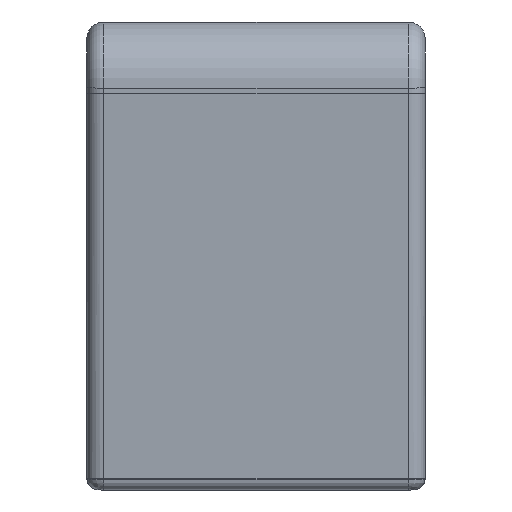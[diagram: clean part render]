
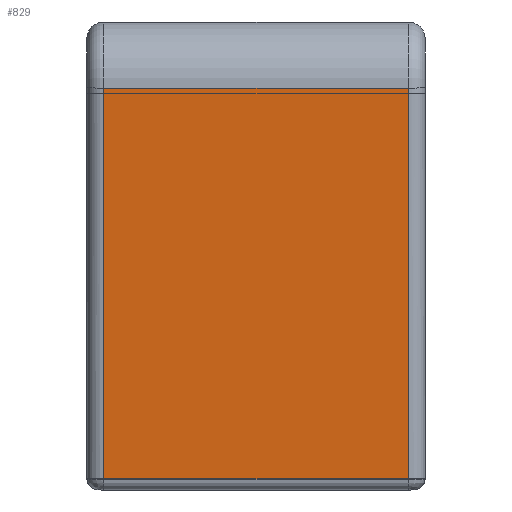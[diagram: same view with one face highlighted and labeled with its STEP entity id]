
A CAD part, left-side view. The second image highlights one B-rep face of the part: STEP entity #829.
In plain terms, the highlighted planar face has unit normal (-0.998, 0, -0.067).
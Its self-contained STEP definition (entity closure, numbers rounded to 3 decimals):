
#15 = EDGE_LOOP ( 'NONE', ( #3205, #3204, #3203, #3202 ) ) ;
#213 = AXIS2_PLACEMENT_3D ( 'NONE', #2545, #2546, #2547 ) ;
#506 = EDGE_CURVE ( 'NONE', #4975, #4966, #4009, .T. ) ;
#507 = EDGE_CURVE ( 'NONE', #4966, #5129, #4013, .T. ) ;
#508 = EDGE_CURVE ( 'NONE', #5129, #759, #4017, .T. ) ;
#509 = EDGE_CURVE ( 'NONE', #4975, #759, #4019, .T. ) ;
#759 = VERTEX_POINT ( 'NONE', #1590 ) ;
#829 = ADVANCED_FACE ( 'NONE', ( #4560 ), #2544, .T. ) ;
#1335 = CARTESIAN_POINT ( 'NONE',  ( -415.063, 13.5, -6.067 ) ) ;
#1344 = CARTESIAN_POINT ( 'NONE',  ( -417.388, 13.5, 28.632 ) ) ;
#1488 = CARTESIAN_POINT ( 'NONE',  ( -415.063, -13.5, -6.067 ) ) ;
#1590 = CARTESIAN_POINT ( 'NONE',  ( -417.388, -13.5, 28.632 ) ) ;
#2544 = PLANE ( 'NONE',  #213 ) ;
#2545 = CARTESIAN_POINT ( 'NONE',  ( -415., 15., -7. ) ) ;
#2546 = DIRECTION ( 'NONE',  ( -0.998, 0., -0.067 ) ) ;
#2547 = DIRECTION ( 'NONE',  ( -0.067, 0., 0.998 ) ) ;
#3202 = ORIENTED_EDGE ( 'NONE', *, *, #509, .F. ) ;
#3203 = ORIENTED_EDGE ( 'NONE', *, *, #508, .T. ) ;
#3204 = ORIENTED_EDGE ( 'NONE', *, *, #507, .T. ) ;
#3205 = ORIENTED_EDGE ( 'NONE', *, *, #506, .T. ) ;
#4009 = LINE ( 'NONE', #4309, #4011 ) ;
#4011 = VECTOR ( 'NONE', #4308, 1000. ) ;
#4013 = LINE ( 'NONE', #4305, #4015 ) ;
#4015 = VECTOR ( 'NONE', #4302, 1000. ) ;
#4017 = LINE ( 'NONE', #4300, #4018 ) ;
#4018 = VECTOR ( 'NONE', #4298, 1000. ) ;
#4019 = LINE ( 'NONE', #4295, #4022 ) ;
#4022 = VECTOR ( 'NONE', #4294, 1000. ) ;
#4294 = DIRECTION ( 'NONE',  ( 0., -1., 0. ) ) ;
#4295 = CARTESIAN_POINT ( 'NONE',  ( -417.388, 15., 28.632 ) ) ;
#4298 = DIRECTION ( 'NONE',  ( -0.067, 0., 0.998 ) ) ;
#4300 = CARTESIAN_POINT ( 'NONE',  ( -417.388, -13.5, 28.632 ) ) ;
#4302 = DIRECTION ( 'NONE',  ( 0., -1., 0. ) ) ;
#4305 = CARTESIAN_POINT ( 'NONE',  ( -415.063, 15., -6.067 ) ) ;
#4308 = DIRECTION ( 'NONE',  ( 0.067, 0., -0.998 ) ) ;
#4309 = CARTESIAN_POINT ( 'NONE',  ( -415., 13.5, -7. ) ) ;
#4560 = FACE_OUTER_BOUND ( 'NONE', #15, .T. ) ;
#4966 = VERTEX_POINT ( 'NONE', #1335 ) ;
#4975 = VERTEX_POINT ( 'NONE', #1344 ) ;
#5129 = VERTEX_POINT ( 'NONE', #1488 ) ;
